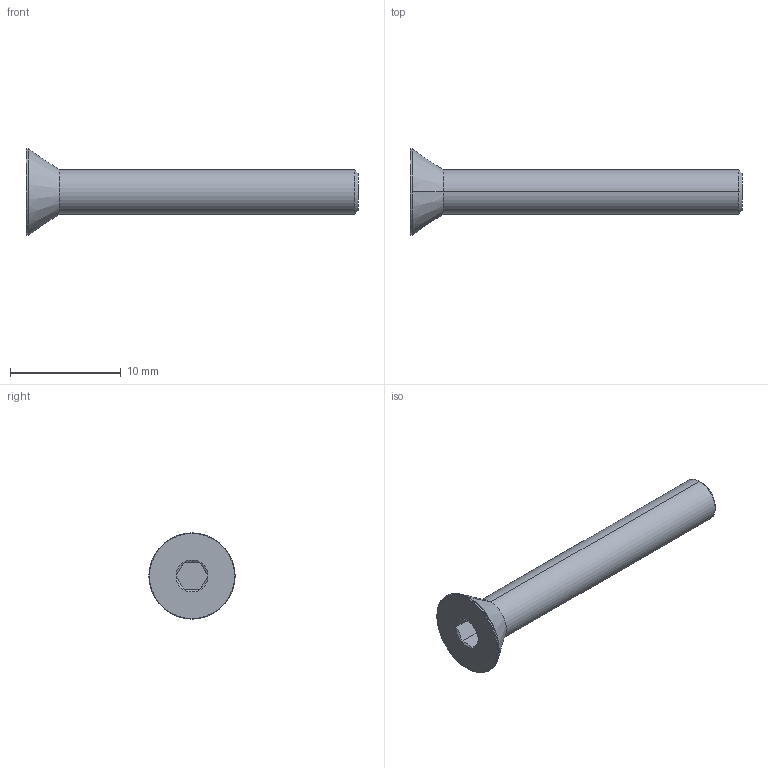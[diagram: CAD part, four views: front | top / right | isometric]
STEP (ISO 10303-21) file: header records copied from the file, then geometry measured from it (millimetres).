
FILE_DESCRIPTION (( 'STEP AP203' ), '1' );
FILE_NAME ('LGDB-TDE-M4x30.STEP', '2026-08-10T11:15:35', ( '' ), ( '' ), 'SwSTEP 2.0', 'SolidWorks 2020', '' );
FILE_SCHEMA (( 'CONFIG_CONTROL_DESIGN' ));
Length unit declared in the file: millimetre
Products named in the file (1): LGDB-TDE-M4x30
Bounding box: 30 x 7.8 x 7.8 mm (x, y, z)
Volume: 416.6 mm3; surface area: 481.2 mm2
Topology: 1 solids, 1 shells, 28 faces, 53 edges, 28 vertices
Faces by surface type: cone 11, plane 9, torus 4, cylinder 4
Entity records: 792 total; most frequent: CARTESIAN_POINT 153, DIRECTION 129, ORIENTED_EDGE 106, AXIS2_PLACEMENT_3D 54, EDGE_CURVE 53, EDGE_LOOP 29, VERTEX_POINT 28, FACE_OUTER_BOUND 28
